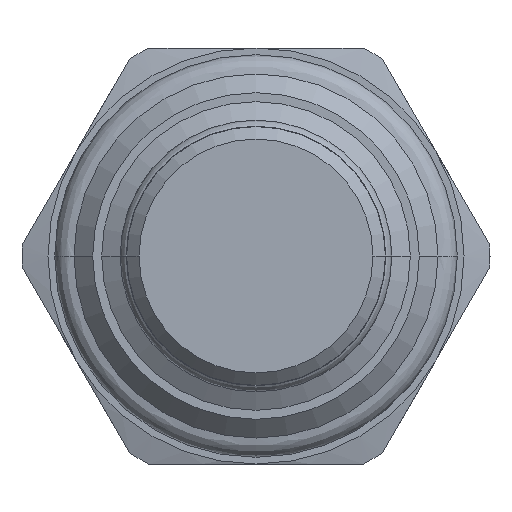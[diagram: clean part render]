
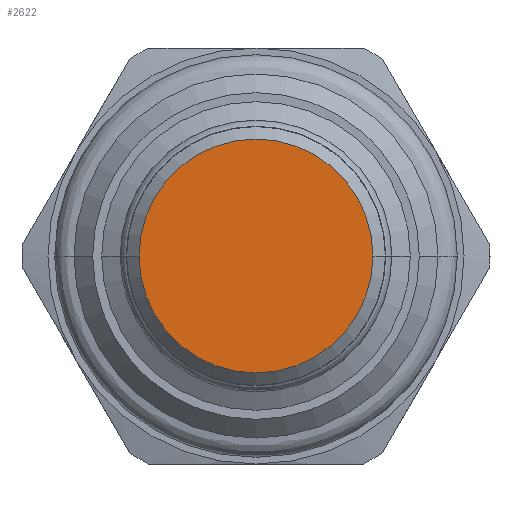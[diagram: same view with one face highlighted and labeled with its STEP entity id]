
A CAD part, front view. The second image highlights one B-rep face of the part: STEP entity #2622.
In plain terms, the highlighted planar face has unit normal (0, -1, 0).
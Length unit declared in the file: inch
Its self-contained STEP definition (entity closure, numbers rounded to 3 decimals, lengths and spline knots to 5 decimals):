
#984=CARTESIAN_POINT('',(0.,-1.251,0.));
#985=DIRECTION('',(0.,1.,0.));
#986=DIRECTION('',(-1.,0.,0.));
#987=AXIS2_PLACEMENT_3D('',#984,#985,#986);
#994=CARTESIAN_POINT('',(0.,-1.251,0.));
#995=DIRECTION('',(0.,1.,0.));
#996=DIRECTION('',(1.,0.,0.));
#997=AXIS2_PLACEMENT_3D('',#994,#995,#996);
#1386=CARTESIAN_POINT('',(-0.281,-1.251,0.));
#1387=CARTESIAN_POINT('',(0.281,-1.251,0.));
#1388=VERTEX_POINT('',#1386);
#1389=VERTEX_POINT('',#1387);
#2612=CARTESIAN_POINT('',(0.,-1.251,0.));
#2613=DIRECTION('',(0.,-1.,0.));
#2614=DIRECTION('',(0.,0.,-1.));
#2615=AXIS2_PLACEMENT_3D('',#2612,#2613,#2614);
#2616=PLANE('',#2615);
#2618=ORIENTED_EDGE('',*,*,#2617,.T.);
#2619=ORIENTED_EDGE('',*,*,#2602,.T.);
#2620=EDGE_LOOP('',(#2618,#2619));
#2621=FACE_OUTER_BOUND('',#2620,.F.);
#2622=ADVANCED_FACE('',(#2621),#2616,.T.);
#988=CIRCLE('',#987,0.281);
#998=CIRCLE('',#997,0.281);
#2602=EDGE_CURVE('',#1388,#1389,#988,.T.);
#2617=EDGE_CURVE('',#1389,#1388,#998,.T.);
